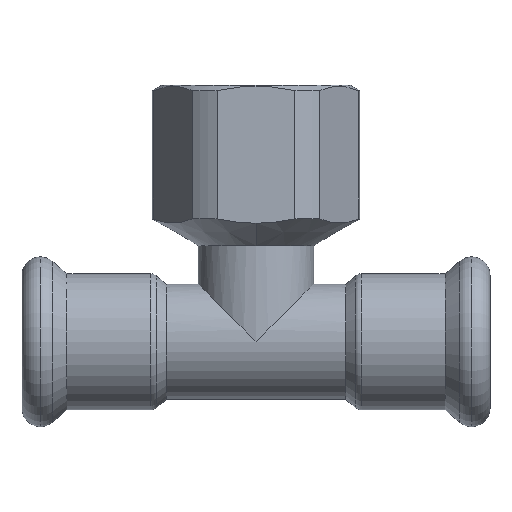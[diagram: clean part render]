
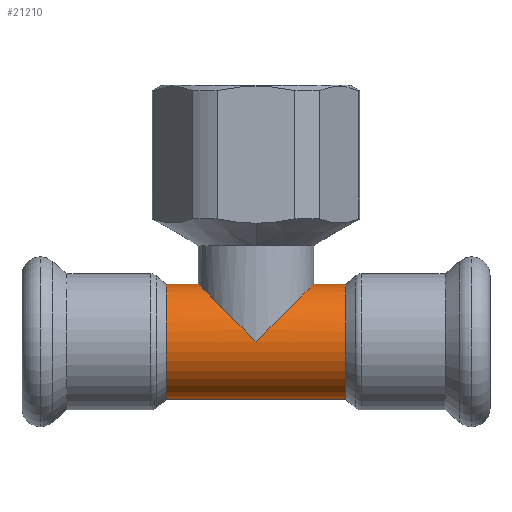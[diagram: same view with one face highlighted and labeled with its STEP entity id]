
A CAD part, top view. The second image highlights one B-rep face of the part: STEP entity #21210.
In plain terms, the highlighted cylindrical face has radius 9 mm (diameter 18 mm), a partial arc.
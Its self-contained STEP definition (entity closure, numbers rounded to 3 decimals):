
#960=CARTESIAN_POINT('',(-188.976,14.121,
0.));
#970=VERTEX_POINT('',#960);
#1150=CARTESIAN_POINT('',(-188.976,32.121,
0.));
#1160=VERTEX_POINT('',#1150);
#1190=CARTESIAN_POINT('',(-188.976,23.121,
0.));
#1200=DIRECTION('',(1.,0.,0.));
#1210=DIRECTION('',(0.,-1.,0.));
#1220=AXIS2_PLACEMENT_3D('',#1190,#1200,#1210);
#1230=CIRCLE('',#1220,9.);
#18500=CARTESIAN_POINT('',(-193.976,32.121,
0.));
#18510=VERTEX_POINT('',#18500);
#18630=CARTESIAN_POINT('',(-211.976,32.121,
0.));
#18640=VERTEX_POINT('',#18630);
#18670=CARTESIAN_POINT('',(-202.976,23.121,
0.));
#18680=DIRECTION('',(-0.707,-0.707,
0.));
#18690=DIRECTION('',(-0.707,0.707,
0.));
#18700=AXIS2_PLACEMENT_3D('',#18670,#18680,#18690);
#18710=ELLIPSE('',#18700,12.728,9.);
#18760=CARTESIAN_POINT('',(-202.976,23.121,
0.));
#18770=DIRECTION('',(-0.707,0.707,
0.));
#18780=DIRECTION('',(-0.707,-0.707,
0.));
#18790=AXIS2_PLACEMENT_3D('',#18760,#18770,#18780);
#18800=ELLIPSE('',#18790,12.728,9.);
#18860=CARTESIAN_POINT('',(-216.976,23.121,
0.));
#18870=DIRECTION('',(-1.,0.,0.));
#18880=DIRECTION('',(0.,-1.,0.));
#18890=AXIS2_PLACEMENT_3D('',#18860,#18870,#18880);
#18900=CYLINDRICAL_SURFACE('',#18890,9.);
#18910=CARTESIAN_POINT('',(-216.976,32.121,
0.));
#18920=DIRECTION('',(-1.,0.,0.));
#18930=VECTOR('',#18920,1.);
#18940=LINE('',#18910,#18930);
#18950=EDGE_CURVE('',#1160,#18510,#18940,.T.);
#18990=CARTESIAN_POINT('',(-216.976,32.121,
0.));
#19000=VERTEX_POINT('',#18990);
#19010=EDGE_CURVE('',#18640,#19000,#18940,.T.);
#19030=CARTESIAN_POINT('',(-216.976,23.121,
0.));
#19040=DIRECTION('',(-1.,0.,0.));
#19050=DIRECTION('',(0.,1.,0.));
#19060=AXIS2_PLACEMENT_3D('',#19030,#19040,#19050);
#19070=CIRCLE('',#19060,9.);
#19080=CARTESIAN_POINT('',(-216.976,14.121,
0.));
#19090=VERTEX_POINT('',#19080);
#19120=CARTESIAN_POINT('',(-216.976,14.121,
0.));
#19130=DIRECTION('',(-1.,0.,0.));
#19140=VECTOR('',#19130,1.);
#19150=LINE('',#19120,#19140);
#19160=EDGE_CURVE('',#970,#19090,#19150,.T.);
#20130=EDGE_CURVE('',#19090,#19000,#19070,.T.);
#21070=ORIENTED_EDGE('',*,*,#20130,.F.);
#21080=ORIENTED_EDGE('',*,*,#19010,.T.);
#21090=CARTESIAN_POINT('',(-202.976,23.121,9.));
#21100=VERTEX_POINT('',#21090);
#21110=EDGE_CURVE('',#21100,#18640,#18710,.T.);
#21120=ORIENTED_EDGE('',*,*,#21110,.T.);
#21130=EDGE_CURVE('',#21100,#18510,#18800,.T.);
#21140=ORIENTED_EDGE('',*,*,#21130,.F.);
#21150=ORIENTED_EDGE('',*,*,#18950,.T.);
#21160=EDGE_CURVE('',#1160,#970,#1230,.T.);
#21170=ORIENTED_EDGE('',*,*,#21160,.F.);
#21180=ORIENTED_EDGE('',*,*,#19160,.F.);
#21190=EDGE_LOOP('',(#21180,#21170,#21150,#21140,#21120,#21080,#21070));
#21200=FACE_OUTER_BOUND('',#21190,.T.);
#21210=ADVANCED_FACE('',(#21200),#18900,.T.);
